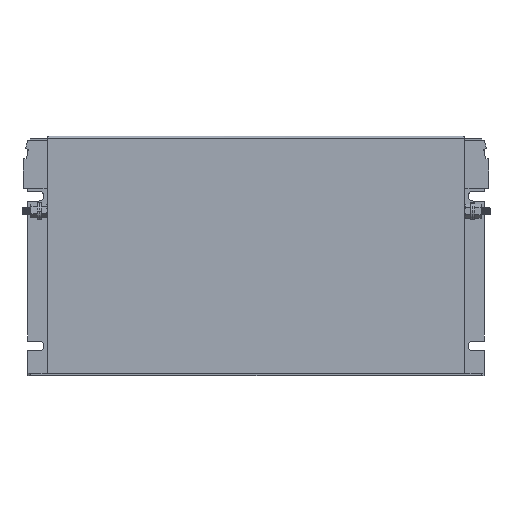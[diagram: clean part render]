
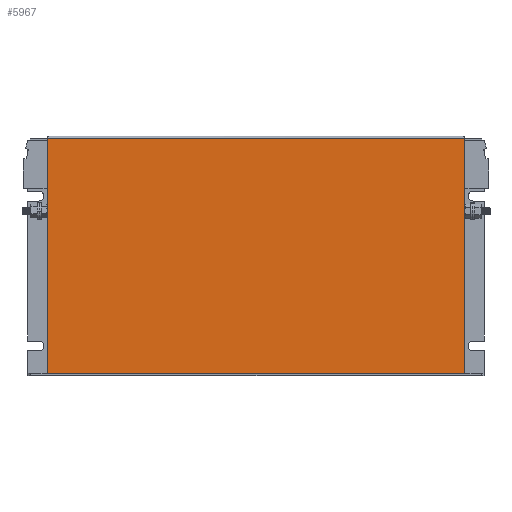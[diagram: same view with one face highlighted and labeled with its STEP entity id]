
A CAD part, top view. The second image highlights one B-rep face of the part: STEP entity #5967.
In plain terms, the highlighted planar face has unit normal (0, 0, 1).
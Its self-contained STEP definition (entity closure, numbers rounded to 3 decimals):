
#296 = VERTEX_POINT ( 'NONE', #1925 ) ;
#390 = DIRECTION ( 'NONE',  ( 0., -1., 0. ) ) ;
#605 = ORIENTED_EDGE ( 'NONE', *, *, #956, .T. ) ;
#956 = EDGE_CURVE ( 'NONE', #1553, #7854, #4709, .T. ) ;
#1553 = VERTEX_POINT ( 'NONE', #4026 ) ;
#1585 = ORIENTED_EDGE ( 'NONE', *, *, #2882, .F. ) ;
#1925 = CARTESIAN_POINT ( 'NONE',  ( 292., 158.5, 1.5 ) ) ;
#2384 = CARTESIAN_POINT ( 'NONE',  ( 13., 1.5, 1.5 ) ) ;
#2396 = EDGE_CURVE ( 'NONE', #296, #1553, #4921, .T. ) ;
#2605 = ORIENTED_EDGE ( 'NONE', *, *, #2396, .T. ) ;
#2631 = AXIS2_PLACEMENT_3D ( 'NONE', #8477, #4934, #3458 ) ;
#2882 = EDGE_CURVE ( 'NONE', #296, #6951, #7988, .T. ) ;
#3071 = ORIENTED_EDGE ( 'NONE', *, *, #6543, .T. ) ;
#3211 = FACE_OUTER_BOUND ( 'NONE', #3894, .T. ) ;
#3391 = PLANE ( 'NONE',  #2631 ) ;
#3458 = DIRECTION ( 'NONE',  ( -1., 0., 0. ) ) ;
#3894 = EDGE_LOOP ( 'NONE', ( #1585, #2605, #605, #3071 ) ) ;
#4026 = CARTESIAN_POINT ( 'NONE',  ( 13., 158.5, 1.5 ) ) ;
#4317 = VECTOR ( 'NONE', #5385, 1000. ) ;
#4709 = LINE ( 'NONE', #9240, #7779 ) ;
#4921 = LINE ( 'NONE', #6434, #5725 ) ;
#4934 = DIRECTION ( 'NONE',  ( 0., 0., -1. ) ) ;
#4993 = LINE ( 'NONE', #8339, #4317 ) ;
#5385 = DIRECTION ( 'NONE',  ( 1., 0., 0. ) ) ;
#5572 = DIRECTION ( 'NONE',  ( 0., -1., 0. ) ) ;
#5725 = VECTOR ( 'NONE', #6548, 1000. ) ;
#5844 = CARTESIAN_POINT ( 'NONE',  ( 292., 1.5, 1.5 ) ) ;
#5967 = ADVANCED_FACE ( 'NONE', ( #3211 ), #3391, .F. ) ;
#6434 = CARTESIAN_POINT ( 'NONE',  ( 13., 158.5, 1.5 ) ) ;
#6543 = EDGE_CURVE ( 'NONE', #7854, #6951, #4993, .T. ) ;
#6548 = DIRECTION ( 'NONE',  ( -1., 0., 0. ) ) ;
#6951 = VERTEX_POINT ( 'NONE', #5844 ) ;
#7544 = VECTOR ( 'NONE', #390, 1000. ) ;
#7779 = VECTOR ( 'NONE', #5572, 1000. ) ;
#7854 = VERTEX_POINT ( 'NONE', #2384 ) ;
#7988 = LINE ( 'NONE', #9162, #7544 ) ;
#8339 = CARTESIAN_POINT ( 'NONE',  ( 13., 1.5, 1.5 ) ) ;
#8477 = CARTESIAN_POINT ( 'NONE',  ( 13., 160., 1.5 ) ) ;
#9162 = CARTESIAN_POINT ( 'NONE',  ( 292., 160., 1.5 ) ) ;
#9240 = CARTESIAN_POINT ( 'NONE',  ( 13., 160., 1.5 ) ) ;
